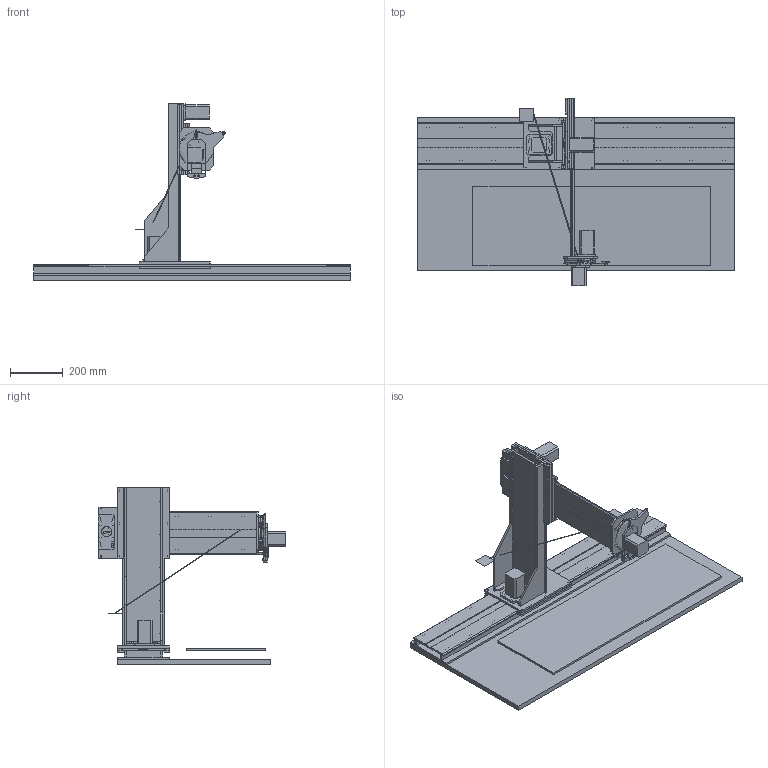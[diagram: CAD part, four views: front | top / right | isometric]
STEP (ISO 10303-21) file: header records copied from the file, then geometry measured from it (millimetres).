
FILE_DESCRIPTION(/* description */ (''),/* implementation_level */ '2;1');
FILE_NAME(/* name */ 'HULTI-~1',/* time_stamp */ '2018-02-20T22:20:30+01:00',/* author */ (''),/* organization */ (''),/* preprocessor_version */ 'ST-DEVELOPER v15',/* originating_system */ '',/* authorisation */ '');
FILE_SCHEMA (('AUTOMOTIVE_DESIGN'));
Products named in the file (1): Document
Bounding box: 1200 x 712 x 669 mm (x, y, z)
Volume: 27075506.8 mm3; surface area: 5731098 mm2
Topology: 75 solids, 76 shells, 2052 faces, 5546 edges, 3711 vertices
Faces by surface type: bspline 1457, plane 595
Entity records: 119397 total; most frequent: CARTESIAN_POINT 87865, ORIENTED_EDGE 11062, EDGE_CURVE 5532, VERTEX_POINT 3687, EDGE_LOOP 2519, ADVANCED_FACE 2052, FACE_OUTER_BOUND 2052, B_SPLINE_CURVE_WITH_KNOTS 1900
